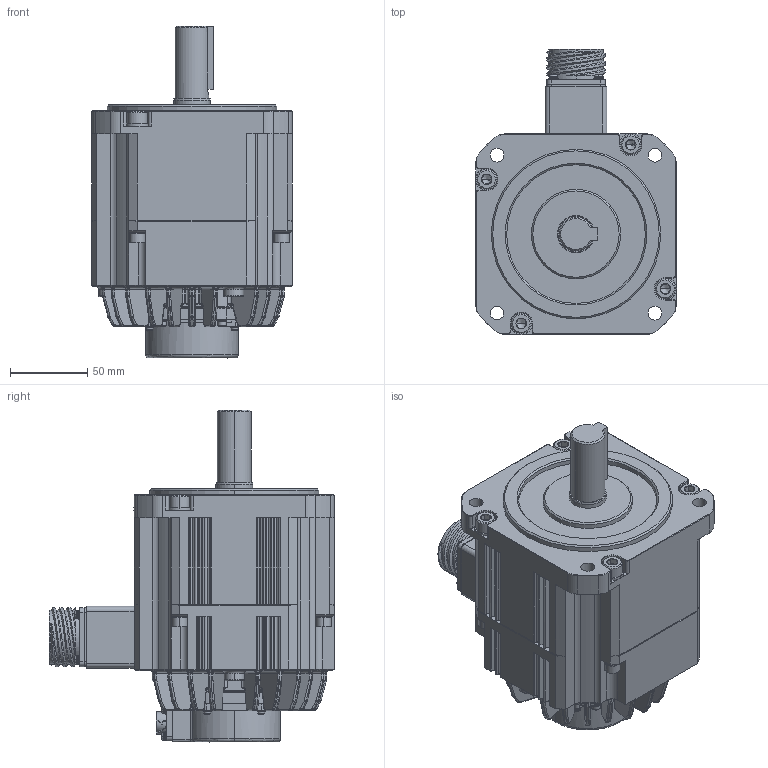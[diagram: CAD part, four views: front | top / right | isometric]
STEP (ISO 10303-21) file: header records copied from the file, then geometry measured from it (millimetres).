
FILE_DESCRIPTION (( 'STEP AP203' ), '1' );
FILE_NAME ('TSM3565N2373E721‘•”z.STEP', '2018-06-25T03:41:49', ( '' ), ( '' ), 'SwSTEP 2.0', 'SolidWorks 2017', '' );
FILE_SCHEMA (( 'CONFIG_CONTROL_DESIGN' ));
Products named in the file (2): Part33^TSM3565N2373E721装配; TSM3565N2373E721装配
Assembly tree (1 placements, depth 2):
  TSM3565N2373E721装配
    Part33^TSM3565N2373E721装配
Bounding box: 130.5 x 185.2 x 215.5 mm (x, y, z)
Volume: 1975685.6 mm3; surface area: 156611.6 mm2
Topology: 1 solids, 23 shells, 3229 faces, 8180 edges, 5027 vertices
Faces by surface type: plane 1054, cylinder 1038, bspline 789, cone 249, sphere 54, torus 45
Entity records: 160598 total; most frequent: CARTESIAN_POINT 90255, ORIENTED_EDGE 16148, DIRECTION 12236, EDGE_CURVE 8074, VERTEX_POINT 5003, AXIS2_PLACEMENT_3D 4278, VECTOR 3680, LINE 3680
